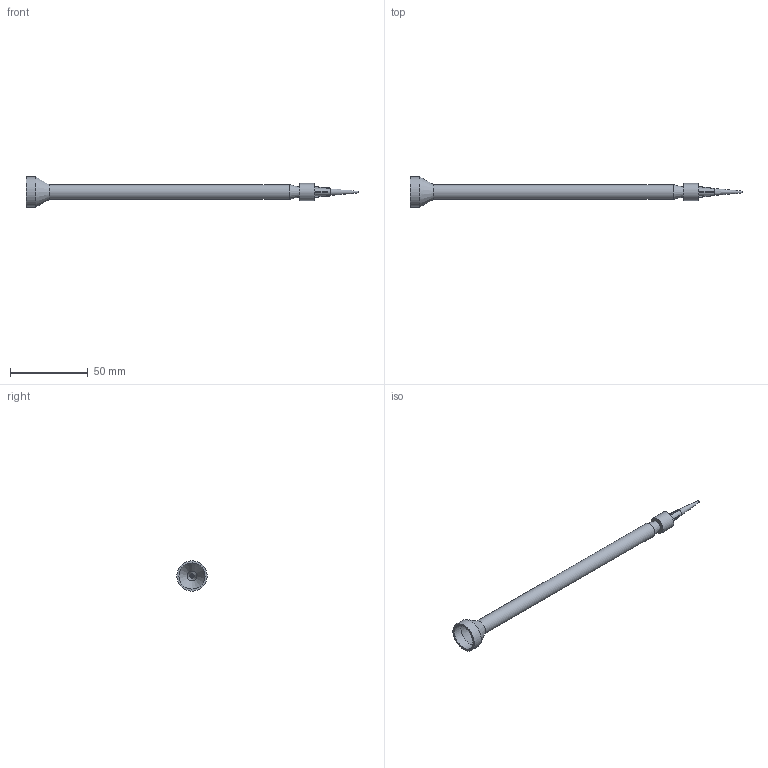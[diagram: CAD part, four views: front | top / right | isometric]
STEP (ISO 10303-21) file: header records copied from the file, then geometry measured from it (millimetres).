
FILE_DESCRIPTION (( 'STEP AP214' ), '1' );
FILE_NAME ('Mixer 6-24L + TT18.STEP', '2024-10-11T14:43:56', ( '' ), ( '' ), 'SwSTEP 2.0', 'SolidWorks 2024', '' );
FILE_SCHEMA (( 'AUTOMOTIVE_DESIGN' ));
Length unit declared in the file: millimetre
Products named in the file (1): Mixer 6-24L + TT18
Bounding box: 213.28 x 19.5 x 19.5 mm (x, y, z)
Volume: 8040.4 mm3; surface area: 11285.4 mm2
Topology: 2 solids, 2 shells, 65 faces, 158 edges, 99 vertices
Faces by surface type: plane 26, cone 17, bspline 14, cylinder 8
Full cylindrical faces by diameter (mm): 6.4 x1, 6.655 x1, 8 x1, 9.5 x1, 11 x1, 16.8 x1, 19.5 x1
Entity records: 2118 total; most frequent: CARTESIAN_POINT 853, ORIENTED_EDGE 244, DIRECTION 228, EDGE_CURVE 122, AXIS2_PLACEMENT_3D 100, EDGE_LOOP 94, VERTEX_POINT 88, FACE_OUTER_BOUND 75
